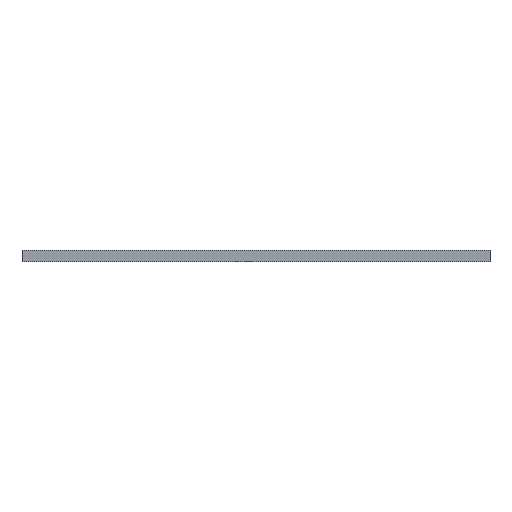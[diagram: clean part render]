
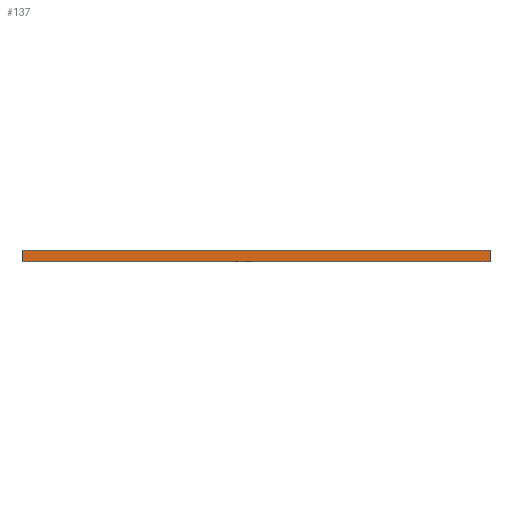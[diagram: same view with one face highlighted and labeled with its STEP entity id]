
A CAD part, front view. The second image highlights one B-rep face of the part: STEP entity #137.
In plain terms, the highlighted planar face has unit normal (0, -1, 0).
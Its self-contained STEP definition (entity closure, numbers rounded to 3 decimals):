
#21 = EDGE_CURVE('',#22,#24,#26,.T.);
#22 = VERTEX_POINT('',#23);
#23 = CARTESIAN_POINT('',(0.,0.,0.));
#24 = VERTEX_POINT('',#25);
#25 = CARTESIAN_POINT('',(0.,0.,1.6));
#26 = SURFACE_CURVE('',#27,(#31,#43),.PCURVE_S1.);
#27 = LINE('',#28,#29);
#28 = CARTESIAN_POINT('',(0.,0.,0.));
#29 = VECTOR('',#30,1.);
#30 = DIRECTION('',(0.,0.,1.));
#31 = PCURVE('',#32,#37);
#32 = PLANE('',#33);
#33 = AXIS2_PLACEMENT_3D('',#34,#35,#36);
#34 = CARTESIAN_POINT('',(0.,0.,0.));
#35 = DIRECTION('',(1.,0.,0.));
#36 = DIRECTION('',(0.,0.,1.));
#37 = DEFINITIONAL_REPRESENTATION('',(#38),#42);
#38 = LINE('',#39,#40);
#39 = CARTESIAN_POINT('',(0.,0.));
#40 = VECTOR('',#41,1.);
#41 = DIRECTION('',(1.,0.));
#42 = ( GEOMETRIC_REPRESENTATION_CONTEXT(2) 
PARAMETRIC_REPRESENTATION_CONTEXT() REPRESENTATION_CONTEXT('2D SPACE',''
  ) );
#43 = PCURVE('',#44,#49);
#44 = PLANE('',#45);
#45 = AXIS2_PLACEMENT_3D('',#46,#47,#48);
#46 = CARTESIAN_POINT('',(0.,0.,0.));
#47 = DIRECTION('',(0.,1.,0.));
#48 = DIRECTION('',(0.,0.,1.));
#49 = DEFINITIONAL_REPRESENTATION('',(#50),#54);
#50 = LINE('',#51,#52);
#51 = CARTESIAN_POINT('',(0.,0.));
#52 = VECTOR('',#53,1.);
#53 = DIRECTION('',(1.,0.));
#54 = ( GEOMETRIC_REPRESENTATION_CONTEXT(2) 
PARAMETRIC_REPRESENTATION_CONTEXT() REPRESENTATION_CONTEXT('2D SPACE',''
  ) );
#72 = PLANE('',#73);
#73 = AXIS2_PLACEMENT_3D('',#74,#75,#76);
#74 = CARTESIAN_POINT('',(0.,0.,0.));
#75 = DIRECTION('',(0.,0.,1.));
#76 = DIRECTION('',(1.,0.,0.));
#126 = PLANE('',#127);
#127 = AXIS2_PLACEMENT_3D('',#128,#129,#130);
#128 = CARTESIAN_POINT('',(0.,0.,1.6));
#129 = DIRECTION('',(0.,0.,1.));
#130 = DIRECTION('',(1.,0.,0.));
#137 = ADVANCED_FACE('',(#138),#44,.F.);
#138 = FACE_BOUND('',#139,.F.);
#139 = EDGE_LOOP('',(#140,#163,#164,#187));
#140 = ORIENTED_EDGE('',*,*,#141,.F.);
#141 = EDGE_CURVE('',#22,#142,#144,.T.);
#142 = VERTEX_POINT('',#143);
#143 = CARTESIAN_POINT('',(65.,0.,0.));
#144 = SURFACE_CURVE('',#145,(#149,#156),.PCURVE_S1.);
#145 = LINE('',#146,#147);
#146 = CARTESIAN_POINT('',(0.,0.,0.));
#147 = VECTOR('',#148,1.);
#148 = DIRECTION('',(1.,0.,0.));
#149 = PCURVE('',#44,#150);
#150 = DEFINITIONAL_REPRESENTATION('',(#151),#155);
#151 = LINE('',#152,#153);
#152 = CARTESIAN_POINT('',(0.,0.));
#153 = VECTOR('',#154,1.);
#154 = DIRECTION('',(0.,1.));
#155 = ( GEOMETRIC_REPRESENTATION_CONTEXT(2) 
PARAMETRIC_REPRESENTATION_CONTEXT() REPRESENTATION_CONTEXT('2D SPACE',''
  ) );
#156 = PCURVE('',#72,#157);
#157 = DEFINITIONAL_REPRESENTATION('',(#158),#162);
#158 = LINE('',#159,#160);
#159 = CARTESIAN_POINT('',(0.,0.));
#160 = VECTOR('',#161,1.);
#161 = DIRECTION('',(1.,0.));
#162 = ( GEOMETRIC_REPRESENTATION_CONTEXT(2) 
PARAMETRIC_REPRESENTATION_CONTEXT() REPRESENTATION_CONTEXT('2D SPACE',''
  ) );
#163 = ORIENTED_EDGE('',*,*,#21,.T.);
#164 = ORIENTED_EDGE('',*,*,#165,.T.);
#165 = EDGE_CURVE('',#24,#166,#168,.T.);
#166 = VERTEX_POINT('',#167);
#167 = CARTESIAN_POINT('',(65.,0.,1.6));
#168 = SURFACE_CURVE('',#169,(#173,#180),.PCURVE_S1.);
#169 = LINE('',#170,#171);
#170 = CARTESIAN_POINT('',(0.,0.,1.6));
#171 = VECTOR('',#172,1.);
#172 = DIRECTION('',(1.,0.,0.));
#173 = PCURVE('',#44,#174);
#174 = DEFINITIONAL_REPRESENTATION('',(#175),#179);
#175 = LINE('',#176,#177);
#176 = CARTESIAN_POINT('',(1.6,0.));
#177 = VECTOR('',#178,1.);
#178 = DIRECTION('',(0.,1.));
#179 = ( GEOMETRIC_REPRESENTATION_CONTEXT(2) 
PARAMETRIC_REPRESENTATION_CONTEXT() REPRESENTATION_CONTEXT('2D SPACE',''
  ) );
#180 = PCURVE('',#126,#181);
#181 = DEFINITIONAL_REPRESENTATION('',(#182),#186);
#182 = LINE('',#183,#184);
#183 = CARTESIAN_POINT('',(0.,0.));
#184 = VECTOR('',#185,1.);
#185 = DIRECTION('',(1.,0.));
#186 = ( GEOMETRIC_REPRESENTATION_CONTEXT(2) 
PARAMETRIC_REPRESENTATION_CONTEXT() REPRESENTATION_CONTEXT('2D SPACE',''
  ) );
#187 = ORIENTED_EDGE('',*,*,#188,.F.);
#188 = EDGE_CURVE('',#142,#166,#189,.T.);
#189 = SURFACE_CURVE('',#190,(#194,#201),.PCURVE_S1.);
#190 = LINE('',#191,#192);
#191 = CARTESIAN_POINT('',(65.,0.,0.));
#192 = VECTOR('',#193,1.);
#193 = DIRECTION('',(0.,0.,1.));
#194 = PCURVE('',#44,#195);
#195 = DEFINITIONAL_REPRESENTATION('',(#196),#200);
#196 = LINE('',#197,#198);
#197 = CARTESIAN_POINT('',(0.,65.));
#198 = VECTOR('',#199,1.);
#199 = DIRECTION('',(1.,0.));
#200 = ( GEOMETRIC_REPRESENTATION_CONTEXT(2) 
PARAMETRIC_REPRESENTATION_CONTEXT() REPRESENTATION_CONTEXT('2D SPACE',''
  ) );
#201 = PCURVE('',#202,#207);
#202 = PLANE('',#203);
#203 = AXIS2_PLACEMENT_3D('',#204,#205,#206);
#204 = CARTESIAN_POINT('',(65.,0.,0.));
#205 = DIRECTION('',(1.,0.,0.));
#206 = DIRECTION('',(0.,0.,1.));
#207 = DEFINITIONAL_REPRESENTATION('',(#208),#212);
#208 = LINE('',#209,#210);
#209 = CARTESIAN_POINT('',(0.,0.));
#210 = VECTOR('',#211,1.);
#211 = DIRECTION('',(1.,0.));
#212 = ( GEOMETRIC_REPRESENTATION_CONTEXT(2) 
PARAMETRIC_REPRESENTATION_CONTEXT() REPRESENTATION_CONTEXT('2D SPACE',''
  ) );
